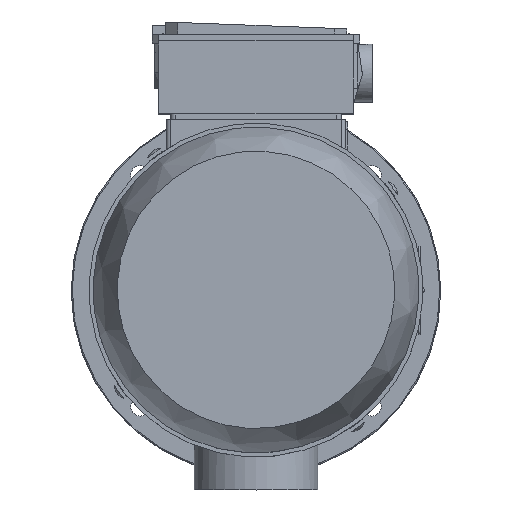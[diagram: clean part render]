
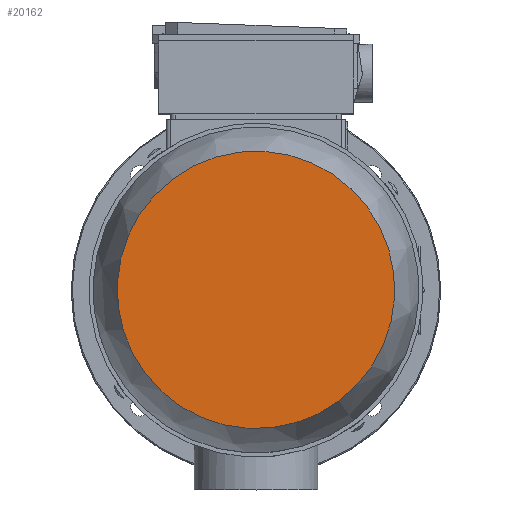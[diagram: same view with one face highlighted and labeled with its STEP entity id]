
A CAD part, top view. The second image highlights one B-rep face of the part: STEP entity #20162.
In plain terms, the highlighted planar face has unit normal (0, 0, 1).
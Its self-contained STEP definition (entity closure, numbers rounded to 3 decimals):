
#676=PLANE('',#21683);
#1751=FACE_OUTER_BOUND('',#2883,.T.);
#2883=EDGE_LOOP('',(#17181,#17182));
#4060=CIRCLE('',#21684,67.666);
#4061=CIRCLE('',#21685,67.666);
#9082=VERTEX_POINT('',#37004);
#9083=VERTEX_POINT('',#37005);
#11819=EDGE_CURVE('',#9082,#9083,#4060,.T.);
#11820=EDGE_CURVE('',#9083,#9082,#4061,.T.);
#17181=ORIENTED_EDGE('',*,*,#11819,.T.);
#17182=ORIENTED_EDGE('',*,*,#11820,.T.);
#20162=ADVANCED_FACE('',(#1751),#676,.T.);
#21683=AXIS2_PLACEMENT_3D('',#37003,#26246,#26247);
#21684=AXIS2_PLACEMENT_3D('',#37006,#26248,#26249);
#21685=AXIS2_PLACEMENT_3D('',#37007,#26250,#26251);
#26246=DIRECTION('center_axis',(0.,0.,
1.));
#26247=DIRECTION('ref_axis',(-0.802,-0.598,0.));
#26248=DIRECTION('center_axis',(0.,0.,
1.));
#26249=DIRECTION('ref_axis',(0.598,-0.802,0.));
#26250=DIRECTION('center_axis',(0.,0.,
1.));
#26251=DIRECTION('ref_axis',(0.598,-0.802,0.));
#37003=CARTESIAN_POINT('Origin',(0.,0.,
232.618));
#37004=CARTESIAN_POINT('',(-40.46,54.238,232.618));
#37005=CARTESIAN_POINT('',(54.238,40.46,232.618));
#37006=CARTESIAN_POINT('Origin',(0.,0.,
232.618));
#37007=CARTESIAN_POINT('Origin',(0.,0.,
232.618));
